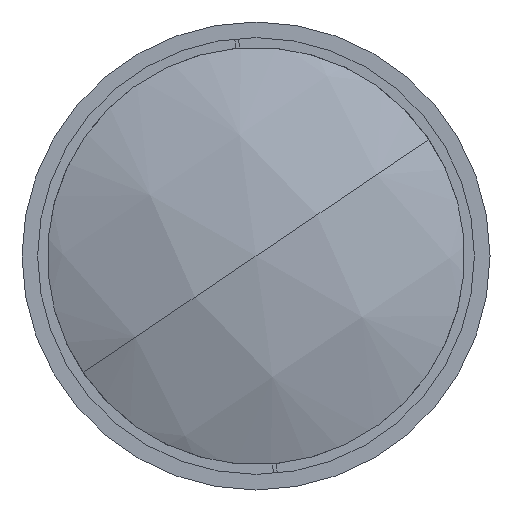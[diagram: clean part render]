
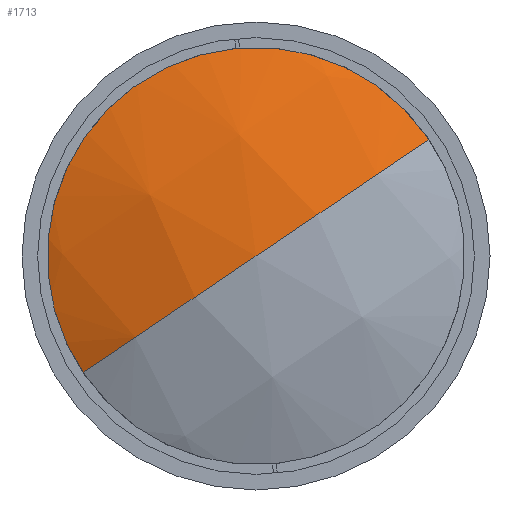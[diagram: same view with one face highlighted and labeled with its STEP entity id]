
A CAD part, left-side view. The second image highlights one B-rep face of the part: STEP entity #1713.
In plain terms, the highlighted spherical face has radius 133.05 mm.
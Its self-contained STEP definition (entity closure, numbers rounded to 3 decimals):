
#166 = CARTESIAN_POINT ( 'NONE',  ( 13.4, 0., 0. ) ) ;
#540 = ORIENTED_EDGE ( 'NONE', *, *, #14025, .T. ) ;
#980 = DIRECTION ( 'NONE',  ( 0., 0.558, 0.83 ) ) ;
#999 = CIRCLE ( 'NONE', #20086, 55. ) ;
#1713 = ADVANCED_FACE ( 'NONE', ( #25432 ), #16630, .T. ) ;
#3260 = EDGE_CURVE ( 'NONE', #17939, #18569, #36279, .T. ) ;
#3447 = DIRECTION ( 'NONE',  ( 0., 0.558, 0.83 ) ) ;
#4099 = ORIENTED_EDGE ( 'NONE', *, *, #25748, .T. ) ;
#6085 = AXIS2_PLACEMENT_3D ( 'NONE', #11146, #34263, #14415 ) ;
#6659 = EDGE_CURVE ( 'NONE', #11990, #29476, #999, .T. ) ;
#7931 = AXIS2_PLACEMENT_3D ( 'NONE', #20782, #980, #24115 ) ;
#9873 = ORIENTED_EDGE ( 'NONE', *, *, #6659, .T. ) ;
#9937 = CARTESIAN_POINT ( 'NONE',  ( 13.4, 45.636, -30.697 ) ) ;
#10032 = CARTESIAN_POINT ( 'NONE',  ( 134.55, 0., 0. ) ) ;
#11146 = CARTESIAN_POINT ( 'NONE',  ( 13.4, 0., 0. ) ) ;
#11990 = VERTEX_POINT ( 'NONE', #13175 ) ;
#13175 = CARTESIAN_POINT ( 'NONE',  ( 13.4, 30.697, 45.636 ) ) ;
#13364 = DIRECTION ( 'NONE',  ( 0., 0.83, -0.558 ) ) ;
#14025 = EDGE_CURVE ( 'NONE', #17939, #11990, #28269, .T. ) ;
#14321 = DIRECTION ( 'NONE',  ( 0., -0.83, 0.558 ) ) ;
#14415 = DIRECTION ( 'NONE',  ( 0., 0.558, 0.83 ) ) ;
#14745 = EDGE_LOOP ( 'NONE', ( #9873, #4099, #22244, #540 ) ) ;
#16630 = SPHERICAL_SURFACE ( 'NONE', #28659, 133.05 ) ;
#17097 = DIRECTION ( 'NONE',  ( 0., 0.558, 0.83 ) ) ;
#17939 = VERTEX_POINT ( 'NONE', #26463 ) ;
#18569 = VERTEX_POINT ( 'NONE', #25726 ) ;
#20086 = AXIS2_PLACEMENT_3D ( 'NONE', #166, #23269, #3447 ) ;
#20778 = CIRCLE ( 'NONE', #7931, 133.05 ) ;
#20782 = CARTESIAN_POINT ( 'NONE',  ( 134.55, 0., 0. ) ) ;
#22244 = ORIENTED_EDGE ( 'NONE', *, *, #3260, .F. ) ;
#23269 = DIRECTION ( 'NONE',  ( -1., 0., 0. ) ) ;
#24115 = DIRECTION ( 'NONE',  ( 0., -0.83, 0.558 ) ) ;
#25432 = FACE_OUTER_BOUND ( 'NONE', #14745, .T. ) ;
#25726 = CARTESIAN_POINT ( 'NONE',  ( 1.5, 0., 0. ) ) ;
#25748 = EDGE_CURVE ( 'NONE', #29476, #18569, #20778, .T. ) ;
#26463 = CARTESIAN_POINT ( 'NONE',  ( 13.4, -45.636, 30.697 ) ) ;
#26769 = AXIS2_PLACEMENT_3D ( 'NONE', #10032, #33174, #13364 ) ;
#28269 = CIRCLE ( 'NONE', #6085, 55. ) ;
#28659 = AXIS2_PLACEMENT_3D ( 'NONE', #34152, #17097, #14321 ) ;
#29476 = VERTEX_POINT ( 'NONE', #9937 ) ;
#33174 = DIRECTION ( 'NONE',  ( 0., -0.558, -0.83 ) ) ;
#34152 = CARTESIAN_POINT ( 'NONE',  ( 134.55, 0., 0. ) ) ;
#34263 = DIRECTION ( 'NONE',  ( -1., 0., 0. ) ) ;
#36279 = CIRCLE ( 'NONE', #26769, 133.05 ) ;
